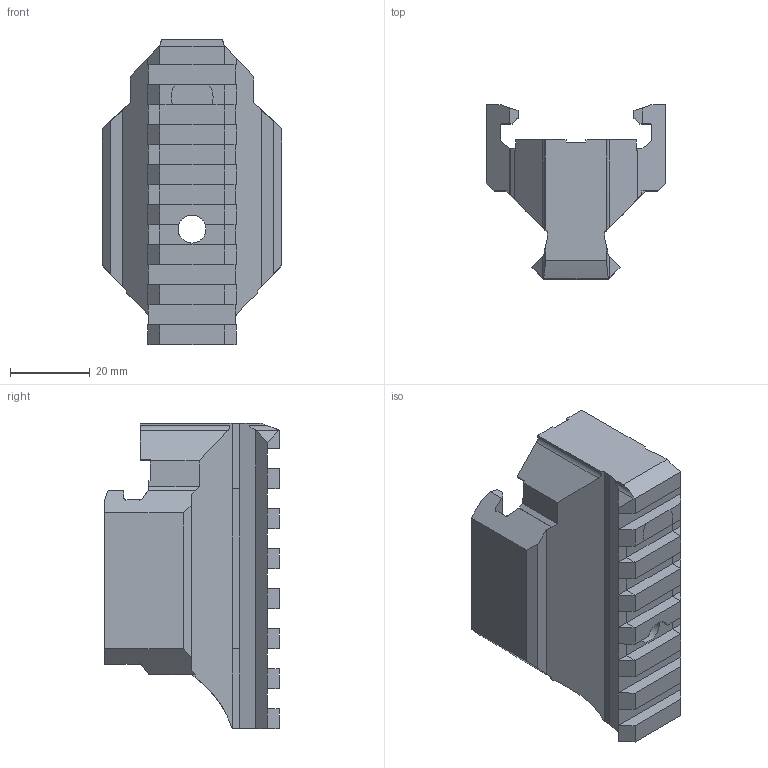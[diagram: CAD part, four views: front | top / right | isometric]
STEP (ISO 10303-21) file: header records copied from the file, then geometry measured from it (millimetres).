
FILE_DESCRIPTION(/* description */ (''),/* implementation_level */ '2;1');
FILE_NAME(/* name */ 'C:/Users/Jacob/Desktop/Daikon_FF2 Sliding Stock/CZ Scorpion Evo Sliding Stock Adapter.step',/* time_stamp */ '2021-10-26T22:36:40-04:00',/* author */ (''),/* organization */ (''),/* preprocessor_version */ 'ST-DEVELOPER v18.1',/* originating_system */ 'Autodesk Translation Framework v10.10.0.1391',/* authorisation */ '');
FILE_SCHEMA (('AUTOMOTIVE_DESIGN { 1 0 10303 214 3 1 1 }'));
Length unit declared in the file: millimetre
Products named in the file (2): CZ Scorpion Evo Sliding Stock Adapter_Component1; modular endcap for scorp adapter v1
Assembly tree (1 placements, depth 2):
  CZ Scorpion Evo Sliding Stock Adapter_Component1
    modular endcap for scorp adapter v1
Bounding box: 45 x 43.61 x 76.35 mm (x, y, z)
Volume: 58286.2 mm3; surface area: 15110.2 mm2
Topology: 1 solids, 1 shells, 411 faces, 1155 edges, 756 vertices
Faces by surface type: plane 180, bspline 150, cylinder 80, cone 1
Full cylindrical faces by diameter (mm): 7 x1, 13.5 x1
Entity records: 14097 total; most frequent: CARTESIAN_POINT 4759, ORIENTED_EDGE 2310, DIRECTION 1552, EDGE_CURVE 1155, VERTEX_POINT 756, LINE 682, VECTOR 682, AXIS2_PLACEMENT_3D 435
